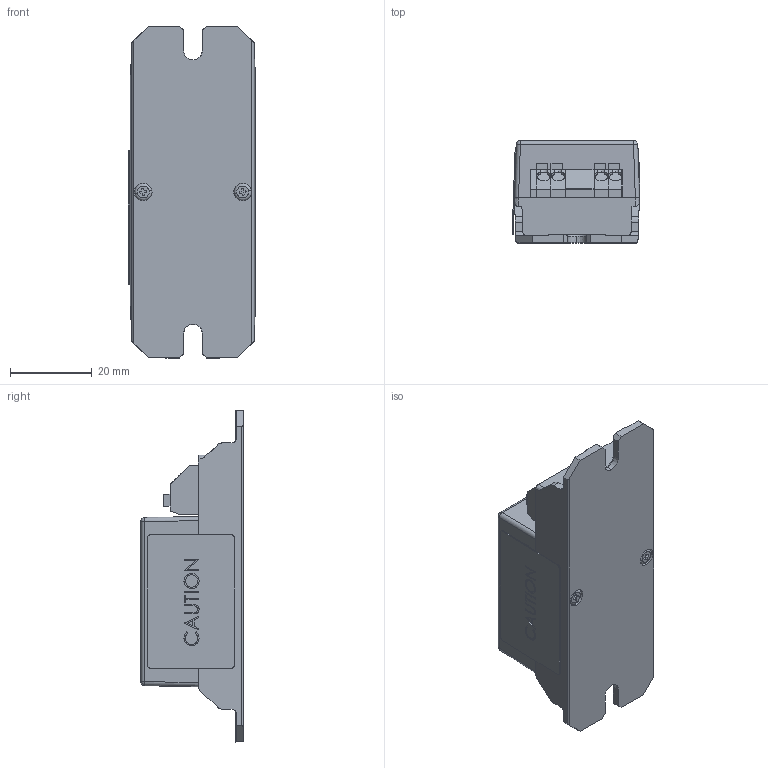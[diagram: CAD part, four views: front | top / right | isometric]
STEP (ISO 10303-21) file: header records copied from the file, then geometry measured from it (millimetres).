
FILE_DESCRIPTION (( 'STEP AP214' ), '1' );
FILE_NAME ('ORB2540-M01 EPK.STEP', '2018-04-05T16:49:18', ( 'LEVADMIN' ), ( 'LEVITON' ), 'SwSTEP 2.0', 'SolidWorks 2017', '' );
FILE_SCHEMA (( 'AUTOMOTIVE_DESIGN' ));
Length unit declared in the file: millimetre
Products named in the file (28): ORB2540-M01 EPK; SOD323_8X83145890000; CC1206_0X74211100201; CC1206_0X62602020405; TP075C125_ARTTP; TPC100_ARTTP; SOO5P254X950_0XB0668890000; JL3P2_PA_0XB1046030103; CC0603_0X74868560002; CC0603_0X74868221003; CC0603_0X74868010000; CC0603_0X74604010505; OXB5260-M01; CC0603_1X74603104305; ORB5296-M01; CC0402_8XA7041104553; ORB4948-M01; SOT3636_0XA2979890008; OX62067-M01 ref; OXB2198-M01; OG62562-M02-REF-MM-REV-125; OXB4243-M01; BAB2539-M01; BAB2538-M01_Vertical; ORB2198-M05; ORB4881-M01; SOT363AKC_0X81642890008; SOD123_0XA0515890008
Assembly tree (38 placements, depth 3):
  ORB2540-M01 EPK
    ORB4881-M01
    BAB2538-M01_Vertical
    OXB4243-M01
    ORB2198-M05
      OXB2198-M01
      SOT3636_0XA2979890008
      CC0402_8XA7041104553  x3
      CC0603_1X74603104305
      CC0603_0X74604010505
      CC0603_0X74868010000
      CC0603_0X74868221003
      CC0603_0X74868560002
      JL3P2_PA_0XB1046030103
      SOO5P254X950_0XB0668890000
      TPC100_ARTTP  x5
      TP075C125_ARTTP  x2
      CC1206_0X62602020405  x4
      CC1206_0X74211100201
      SOD323_8X83145890000
      SOD123_0XA0515890008  x2
      SOT363AKC_0X81642890008
    BAB2539-M01
    OG62562-M02-REF-MM-REV-125  x2
    OX62067-M01 ref
    ORB5296-M01
    OXB5260-M01
  ORB4948-M01
Bounding box: 31.17 x 25 x 81 mm (x, y, z)
Volume: 15725.5 mm3; surface area: 31984.9 mm2
Topology: 45 solids, 54 shells, 1935 faces, 5221 edges, 3479 vertices
Faces by surface type: plane 1190, cylinder 470, bspline 191, cone 48, torus 24, sphere 12
Entity records: 73896 total; most frequent: CARTESIAN_POINT 25371, ORIENTED_EDGE 8954, DIRECTION 7206, EDGE_CURVE 4494, VECTOR 3038, LINE 3038, VERTEX_POINT 2979, AXIS2_PLACEMENT_3D 2084
